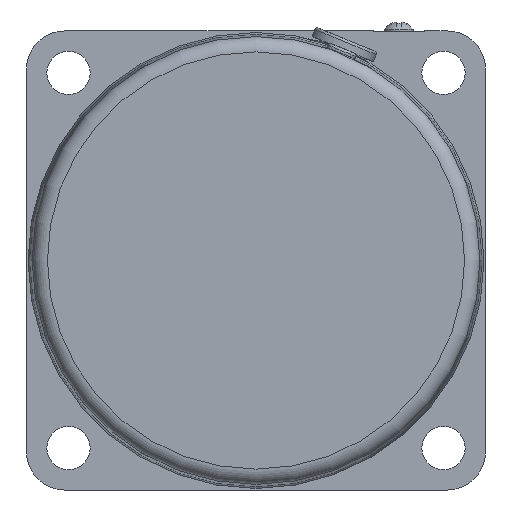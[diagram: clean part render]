
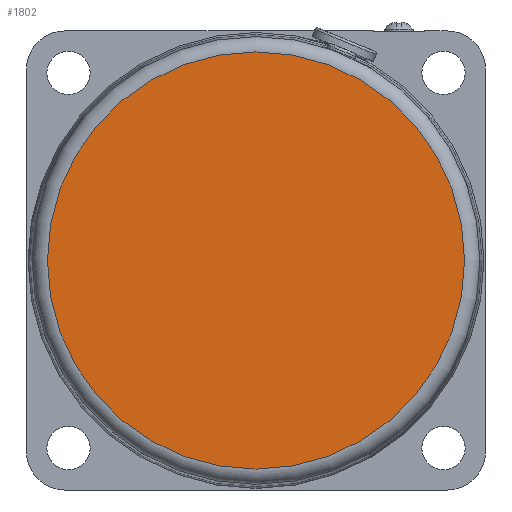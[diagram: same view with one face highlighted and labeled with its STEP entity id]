
A CAD part, left-side view. The second image highlights one B-rep face of the part: STEP entity #1802.
In plain terms, the highlighted planar face has unit normal (-1, 0, 0).
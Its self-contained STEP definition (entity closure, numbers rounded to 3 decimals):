
#397=FACE_OUTER_BOUND('',#520,.T.);
#520=EDGE_LOOP('',(#1174));
#660=CIRCLE('',#1927,40.9);
#749=VERTEX_POINT('',#2688);
#922=EDGE_CURVE('',#749,#749,#660,.T.);
#1174=ORIENTED_EDGE('',*,*,#922,.F.);
#1620=PLANE('',#1929);
#1802=ADVANCED_FACE('',(#397),#1620,.T.);
#1927=AXIS2_PLACEMENT_3D('',#2689,#2153,#2154);
#1929=AXIS2_PLACEMENT_3D('',#2691,#2157,#2158);
#2153=DIRECTION('center_axis',(1.,0.,0.));
#2154=DIRECTION('ref_axis',(0.,1.,0.));
#2157=DIRECTION('center_axis',(-1.,0.,0.));
#2158=DIRECTION('ref_axis',(0.,1.,0.));
#2688=CARTESIAN_POINT('',(-38.5,-40.9,0.));
#2689=CARTESIAN_POINT('Origin',(-38.5,0.,
0.));
#2691=CARTESIAN_POINT('Origin',(-38.5,0.,
0.));
